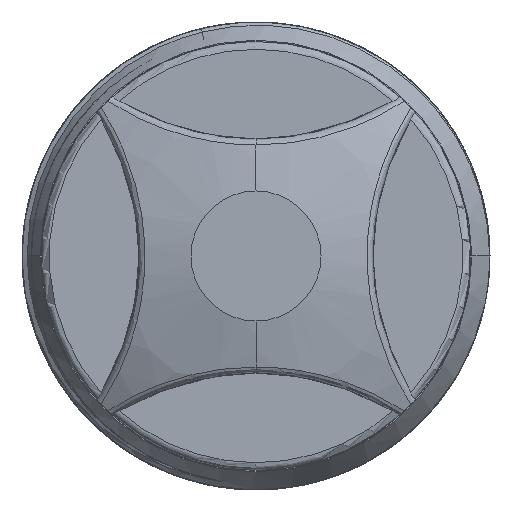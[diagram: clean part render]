
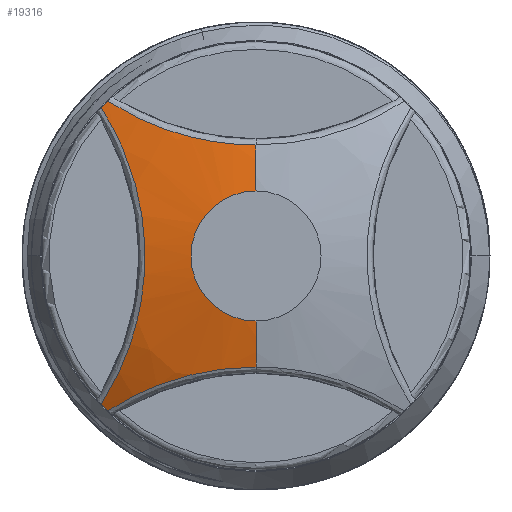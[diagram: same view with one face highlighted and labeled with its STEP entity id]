
A CAD part, front view. The second image highlights one B-rep face of the part: STEP entity #19316.
In plain terms, the highlighted spherical face has radius 18 mm.
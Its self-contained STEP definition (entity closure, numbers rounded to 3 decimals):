
#5934=CARTESIAN_POINT('',(-5.703,-1.999,
5.961));
#5955=CARTESIAN_POINT('',(0.,-3.826,0.));
#5956=DIRECTION('',(0.,1.,0.));
#5957=DIRECTION('',(-1.,0.,0.));
#5958=AXIS2_PLACEMENT_3D('',#5955,#5956,#5957);
#5960=CARTESIAN_POINT('',(0.,-3.826,0.));
#5961=DIRECTION('',(0.,1.,0.));
#5962=DIRECTION('',(0.,0.,-1.));
#5963=AXIS2_PLACEMENT_3D('',#5960,#5961,#5962);
#5965=CARTESIAN_POINT('',(0.,-3.486,
-4.272));
#5966=CARTESIAN_POINT('',(-0.162,-3.486,
-4.273));
#5967=CARTESIAN_POINT('',(-0.472,-3.479,
-4.279));
#5968=CARTESIAN_POINT('',(-0.919,-3.454,
-4.309));
#5969=CARTESIAN_POINT('',(-1.348,-3.415,
-4.356));
#5970=CARTESIAN_POINT('',(-1.76,-3.362,
-4.418));
#5971=CARTESIAN_POINT('',(-2.163,-3.297,
-4.495));
#5972=CARTESIAN_POINT('',(-2.568,-3.217,
-4.588));
#5973=CARTESIAN_POINT('',(-2.989,-3.118,
-4.704));
#5974=CARTESIAN_POINT('',(-3.44,-2.993,
-4.849));
#5975=CARTESIAN_POINT('',(-3.936,-2.831,
-5.034));
#5976=CARTESIAN_POINT('',(-4.482,-2.622,
-5.272));
#5977=CARTESIAN_POINT('',(-5.072,-2.352,
-5.572));
#5978=CARTESIAN_POINT('',(-5.49,-2.127,
-5.823));
#5979=CARTESIAN_POINT('',(-5.703,-1.999,
-5.961));
#5981=CARTESIAN_POINT('',(0.,-1.998,0.));
#5982=DIRECTION('',(0.,1.,0.));
#5983=DIRECTION('',(-0.691,0.,-0.723));
#5984=AXIS2_PLACEMENT_3D('',#5981,#5982,#5983);
#5986=CARTESIAN_POINT('',(-5.961,-1.999,
-5.703));
#5987=CARTESIAN_POINT('',(-5.816,-2.133,
-5.48));
#5988=CARTESIAN_POINT('',(-5.554,-2.369,
-5.041));
#5989=CARTESIAN_POINT('',(-5.241,-2.649,
-4.417));
#5990=CARTESIAN_POINT('',(-4.994,-2.866,
-3.837));
#5991=CARTESIAN_POINT('',(-4.802,-3.033,
-3.306));
#5992=CARTESIAN_POINT('',(-4.656,-3.159,
-2.824));
#5993=CARTESIAN_POINT('',(-4.543,-3.255,
-2.383));
#5994=CARTESIAN_POINT('',(-4.457,-3.329,
-1.973));
#5995=CARTESIAN_POINT('',(-4.39,-3.386,
-1.583));
#5996=CARTESIAN_POINT('',(-4.339,-3.429,
-1.203));
#5997=CARTESIAN_POINT('',(-4.301,-3.461,
-0.817));
#5998=CARTESIAN_POINT('',(-4.278,-3.481,
-0.417));
#5999=CARTESIAN_POINT('',(-4.269,-3.488,
-0.018));
#6000=CARTESIAN_POINT('',(-4.276,-3.482,
0.384));
#6001=CARTESIAN_POINT('',(-4.299,-3.463,
0.785));
#6002=CARTESIAN_POINT('',(-4.335,-3.432,
1.17));
#6003=CARTESIAN_POINT('',(-4.385,-3.39,
1.55));
#6004=CARTESIAN_POINT('',(-4.45,-3.335,
1.939));
#6005=CARTESIAN_POINT('',(-4.535,-3.262,
2.347));
#6006=CARTESIAN_POINT('',(-4.645,-3.169,
2.784));
#6007=CARTESIAN_POINT('',(-4.789,-3.044,
3.267));
#6008=CARTESIAN_POINT('',(-4.982,-2.877,
3.807));
#6009=CARTESIAN_POINT('',(-5.23,-2.659,
4.394));
#6010=CARTESIAN_POINT('',(-5.546,-2.376,
5.026));
#6011=CARTESIAN_POINT('',(-5.813,-2.136,
5.475));
#6012=CARTESIAN_POINT('',(-5.961,-1.999,
5.703));
#6014=CARTESIAN_POINT('',(0.,-1.998,0.));
#6015=DIRECTION('',(0.,1.,0.));
#6016=DIRECTION('',(-0.723,0.,0.691));
#6017=AXIS2_PLACEMENT_3D('',#6014,#6015,#6016);
#6019=CARTESIAN_POINT('',(-5.703,-1.999,
5.961));
#6020=CARTESIAN_POINT('',(-5.489,-2.128,
5.822));
#6021=CARTESIAN_POINT('',(-5.068,-2.354,
5.57));
#6022=CARTESIAN_POINT('',(-4.474,-2.625,
5.268));
#6023=CARTESIAN_POINT('',(-3.924,-2.836,
5.029));
#6024=CARTESIAN_POINT('',(-3.418,-2.999,
4.841));
#6025=CARTESIAN_POINT('',(-2.957,-3.126,
4.694));
#6026=CARTESIAN_POINT('',(-2.53,-3.225,
4.579));
#6027=CARTESIAN_POINT('',(-2.123,-3.304,
4.486));
#6028=CARTESIAN_POINT('',(-1.723,-3.367,
4.412));
#6029=CARTESIAN_POINT('',(-1.314,-3.418,
4.352));
#6030=CARTESIAN_POINT('',(-0.894,-3.456,
4.307));
#6031=CARTESIAN_POINT('',(-0.458,-3.48,
4.278));
#6032=CARTESIAN_POINT('',(-0.157,-3.486,
4.273));
#6033=CARTESIAN_POINT('',(0.,-3.486,
4.272));
#6035=CARTESIAN_POINT('',(0.,14.,0.));
#6036=DIRECTION('',(1.,0.,0.));
#6037=DIRECTION('',(0.,-0.971,0.237));
#6038=AXIS2_PLACEMENT_3D('',#6035,#6036,#6037);
#6049=CARTESIAN_POINT('',(0.,-3.486,
4.272));
#6117=CARTESIAN_POINT('',(0.,-3.486,
-4.272));
#6119=CARTESIAN_POINT('',(0.,14.,0.));
#6120=DIRECTION('',(-1.,0.,0.));
#6121=DIRECTION('',(0.,-0.971,-0.237));
#6122=AXIS2_PLACEMENT_3D('',#6119,#6120,#6121);
#6295=CARTESIAN_POINT('',(-5.961,-1.999,
-5.703));
#6700=VERTEX_POINT('',#6117);
#6701=VERTEX_POINT('',#6049);
#6714=VERTEX_POINT('',#5934);
#6715=CARTESIAN_POINT('',(-5.96,-1.998,
5.703));
#6716=VERTEX_POINT('',#6715);
#6722=VERTEX_POINT('',#6295);
#6723=CARTESIAN_POINT('',(-5.703,-1.998,
-5.96));
#6724=VERTEX_POINT('',#6723);
#6762=CARTESIAN_POINT('',(0.,-3.826,2.5));
#6764=VERTEX_POINT('',#6762);
#6766=CARTESIAN_POINT('',(0.,-3.826,-2.5));
#6767=VERTEX_POINT('',#6766);
#6768=CARTESIAN_POINT('',(-2.5,-3.826,0.));
#6769=VERTEX_POINT('',#6768);
#19294=CARTESIAN_POINT('',(0.,14.,0.));
#19295=DIRECTION('',(0.,-1.,0.));
#19296=DIRECTION('',(0.063,0.,0.998));
#19297=AXIS2_PLACEMENT_3D('',#19294,#19295,#19296);
#19298=SPHERICAL_SURFACE('',#19297,18.);
#19300=ORIENTED_EDGE('',*,*,#19299,.F.);
#19302=ORIENTED_EDGE('',*,*,#19301,.F.);
#19304=ORIENTED_EDGE('',*,*,#19303,.F.);
#19306=ORIENTED_EDGE('',*,*,#19305,.T.);
#19307=ORIENTED_EDGE('',*,*,#19082,.T.);
#19309=ORIENTED_EDGE('',*,*,#19308,.T.);
#19310=ORIENTED_EDGE('',*,*,#19072,.T.);
#19311=ORIENTED_EDGE('',*,*,#19284,.T.);
#19313=ORIENTED_EDGE('',*,*,#19312,.T.);
#19314=EDGE_LOOP('',(#19300,#19302,#19304,#19306,#19307,#19309,#19310,#19311,
#19313));
#19315=FACE_OUTER_BOUND('',#19314,.F.);
#19316=ADVANCED_FACE('',(#19315),#19298,.T.);
#5959=CIRCLE('',#5958,2.5);
#5964=CIRCLE('',#5963,2.5);
#5980=B_SPLINE_CURVE_WITH_KNOTS('',3,(#5965,#5966,#5967,#5968,#5969,#5970,#5971,
#5972,#5973,#5974,#5975,#5976,#5977,#5978,#5979),.UNSPECIFIED.,.F.,.F.,(4,1,1,1,
1,1,1,1,1,1,1,1,4),(0.,0.083,0.167,0.25,
0.333,0.417,0.5,0.583,0.667,
0.75,0.833,0.917,1.),.UNSPECIFIED.);
#5985=CIRCLE('',#5984,8.249);
#6013=B_SPLINE_CURVE_WITH_KNOTS('',3,(#5986,#5987,#5988,#5989,#5990,#5991,#5992,
#5993,#5994,#5995,#5996,#5997,#5998,#5999,#6000,#6001,#6002,#6003,#6004,#6005,
#6006,#6007,#6008,#6009,#6010,#6011,#6012),.UNSPECIFIED.,.F.,.F.,(4,1,1,1,1,1,1,
1,1,1,1,1,1,1,1,1,1,1,1,1,1,1,1,1,4),(0.,0.042,0.083,
0.125,0.167,0.208,0.25,0.292,
0.333,0.375,0.417,0.458,0.5,
0.542,0.583,0.625,0.667,0.708,
0.75,0.792,0.833,0.875,0.917,
0.958,1.),.UNSPECIFIED.);
#6018=CIRCLE('',#6017,8.249);
#6034=B_SPLINE_CURVE_WITH_KNOTS('',3,(#6019,#6020,#6021,#6022,#6023,#6024,#6025,
#6026,#6027,#6028,#6029,#6030,#6031,#6032,#6033),.UNSPECIFIED.,.F.,.F.,(4,1,1,1,
1,1,1,1,1,1,1,1,4),(0.,0.083,0.167,0.25,
0.333,0.417,0.5,0.583,0.667,
0.75,0.833,0.917,1.),.UNSPECIFIED.);
#6039=CIRCLE('',#6038,18.);
#6123=CIRCLE('',#6122,18.);
#19072=EDGE_CURVE('',#6716,#6714,#6018,.T.);
#19082=EDGE_CURVE('',#6724,#6722,#5985,.T.);
#19284=EDGE_CURVE('',#6714,#6701,#6034,.T.);
#19299=EDGE_CURVE('',#6769,#6764,#5959,.T.);
#19301=EDGE_CURVE('',#6767,#6769,#5964,.T.);
#19303=EDGE_CURVE('',#6700,#6767,#6123,.T.);
#19305=EDGE_CURVE('',#6700,#6724,#5980,.T.);
#19308=EDGE_CURVE('',#6722,#6716,#6013,.T.);
#19312=EDGE_CURVE('',#6701,#6764,#6039,.T.);
